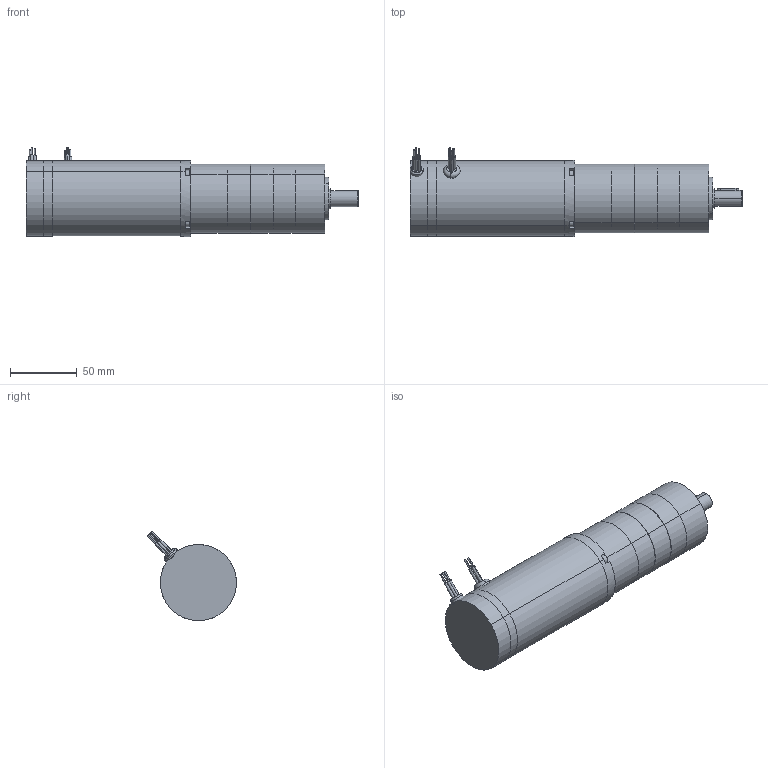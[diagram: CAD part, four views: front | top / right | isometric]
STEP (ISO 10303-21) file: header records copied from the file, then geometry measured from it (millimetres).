
FILE_DESCRIPTION (( 'STEP AP203' ), '1' );
FILE_NAME ('bl58487gp3.step', '2018-12-07T18:58:57', ( '' ), ( '' ), 'SwSTEP 2.0', 'SolidWorks 2017', '' );
FILE_SCHEMA (( 'CONFIG_CONTROL_DESIGN' ));
Length unit declared in the file: inch
Products named in the file (1): bl58487gp3
Bounding box: 249.42 x 66.83 x 67 mm (x, y, z)
Volume: 534215.5 mm3; surface area: 91036.2 mm2
Topology: 23 solids, 23 shells, 388 faces, 820 edges, 516 vertices
Faces by surface type: cylinder 160, plane 155, cone 69, torus 4
Entity records: 10548 total; most frequent: DIRECTION 1965, CARTESIAN_POINT 1837, ORIENTED_EDGE 1608, EDGE_CURVE 804, AXIS2_PLACEMENT_3D 778, VERTEX_POINT 516, EDGE_LOOP 462, LINE 409
